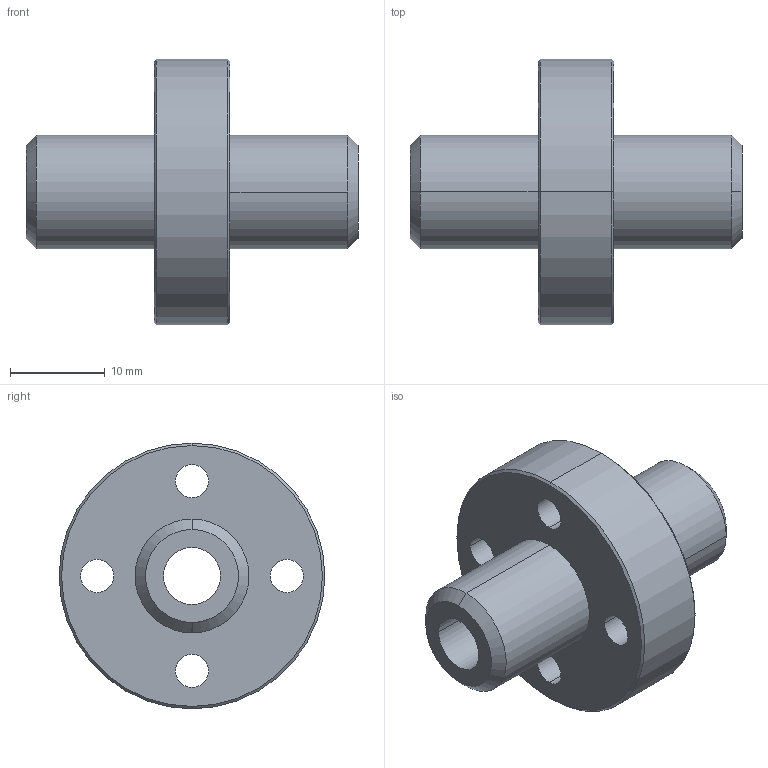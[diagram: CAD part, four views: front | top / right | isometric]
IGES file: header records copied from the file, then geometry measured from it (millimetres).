
Start section: 3D InterOp IGES (Version 21 0 1), Spatial Corp. Copyright (c) 1999-2007.
Global section: file name: CFPJR06.igs; native system: Spatial Corp.; preprocessor: 3D InterOp GENERIC/IGES 3.0; author: Noname; organization: Noname; date: 20220324.132031; units: millimetre
Bounding box: 35 x 28 x 28 mm (x, y, z)
Surface area: 3850.5 mm2 (no closed solid volume)
Topology: 0 solids, 0 shells, 40 faces, 180 edges, 180 vertices
Faces by surface type: revolution 32, extrusion 8
